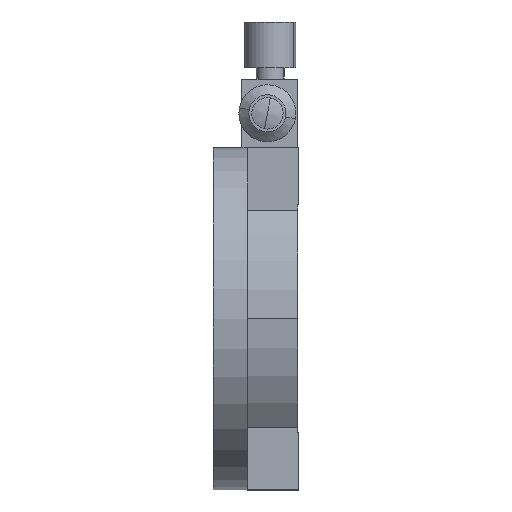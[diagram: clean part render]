
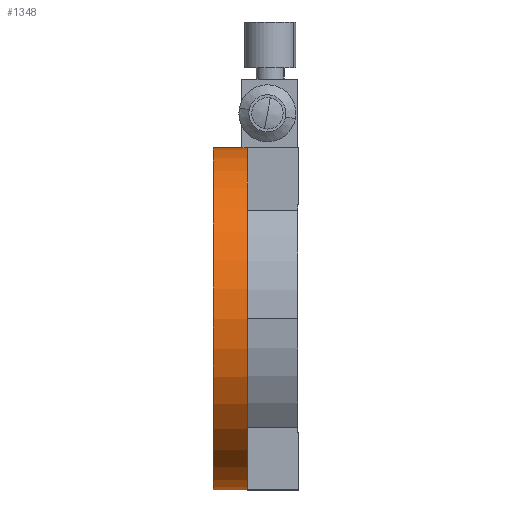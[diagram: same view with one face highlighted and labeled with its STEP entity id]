
A CAD part, left-side view. The second image highlights one B-rep face of the part: STEP entity #1348.
In plain terms, the highlighted cylindrical face has radius 30 mm (diameter 60 mm), a partial arc.
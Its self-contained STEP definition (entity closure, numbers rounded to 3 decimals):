
#1348 = ADVANCED_FACE ( 'NONE', ( #3920 ), #3912, .T. ) ;
#1349 = EDGE_LOOP ( 'NONE', ( #1350, #1351, #1567, #1568 ) ) ;
#1350 = ORIENTED_EDGE ( 'NONE', *, *, #1525, .F. ) ;
#1351 = ORIENTED_EDGE ( 'NONE', *, *, #1352, .T. ) ;
#1352 = EDGE_CURVE ( 'NONE', #1535, #1616, #3908, .T. ) ;
#1515 = EDGE_CURVE ( 'NONE', #1526, #1529, #3990, .T. ) ;
#1525 = EDGE_CURVE ( 'NONE', #1535, #1526, #4167, .T. ) ;
#1526 = VERTEX_POINT ( 'NONE', #4156 ) ;
#1529 = VERTEX_POINT ( 'NONE', #4119 ) ;
#1531 = EDGE_CURVE ( 'NONE', #1616, #1529, #4127, .T. ) ;
#1535 = VERTEX_POINT ( 'NONE', #4153 ) ;
#1567 = ORIENTED_EDGE ( 'NONE', *, *, #1531, .T. ) ;
#1568 = ORIENTED_EDGE ( 'NONE', *, *, #1515, .F. ) ;
#1616 = VERTEX_POINT ( 'NONE', #4644 ) ;
#3905 = DIRECTION ( 'NONE',  ( 0., 0., -1. ) ) ;
#3906 = DIRECTION ( 'NONE',  ( 0., -1., 0. ) ) ;
#3907 = AXIS2_PLACEMENT_3D ( 'NONE', #3913, #3906, #3905 ) ;
#3908 = CIRCLE ( 'NONE', #3907, 30. ) ;
#3909 = DIRECTION ( 'NONE',  ( 0., 0., -1. ) ) ;
#3910 = DIRECTION ( 'NONE',  ( 0., -1., 0. ) ) ;
#3911 = AXIS2_PLACEMENT_3D ( 'NONE', #3914, #3910, #3909 ) ;
#3912 = CYLINDRICAL_SURFACE ( 'NONE', #3911, 30. ) ;
#3913 = CARTESIAN_POINT ( 'NONE',  ( 0., 15., 0. ) ) ;
#3914 = CARTESIAN_POINT ( 'NONE',  ( 0., -10.298, 0. ) ) ;
#3920 = FACE_OUTER_BOUND ( 'NONE', #1349, .T. ) ;
#3986 = DIRECTION ( 'NONE',  ( 0., 0., -1. ) ) ;
#3987 = DIRECTION ( 'NONE',  ( 0., -1., 0. ) ) ;
#3988 = CARTESIAN_POINT ( 'NONE',  ( 0., 9., 0. ) ) ;
#3989 = AXIS2_PLACEMENT_3D ( 'NONE', #3988, #3987, #3986 ) ;
#3990 = CIRCLE ( 'NONE', #3989, 30. ) ;
#4119 = CARTESIAN_POINT ( 'NONE',  ( 0., 9., -30. ) ) ;
#4124 = DIRECTION ( 'NONE',  ( 0., -1., 0. ) ) ;
#4125 = VECTOR ( 'NONE', #4124, 1000. ) ;
#4126 = CARTESIAN_POINT ( 'NONE',  ( 0., -10.298, -30. ) ) ;
#4127 = LINE ( 'NONE', #4126, #4125 ) ;
#4153 = CARTESIAN_POINT ( 'NONE',  ( 0., 15., 30. ) ) ;
#4156 = CARTESIAN_POINT ( 'NONE',  ( 0., 9., 30. ) ) ;
#4157 = DIRECTION ( 'NONE',  ( 0., -1., 0. ) ) ;
#4158 = VECTOR ( 'NONE', #4157, 1000. ) ;
#4159 = CARTESIAN_POINT ( 'NONE',  ( 0., -10.298, 30. ) ) ;
#4167 = LINE ( 'NONE', #4159, #4158 ) ;
#4644 = CARTESIAN_POINT ( 'NONE',  ( 0., 15., -30. ) ) ;
